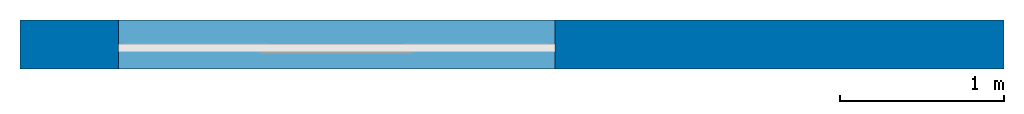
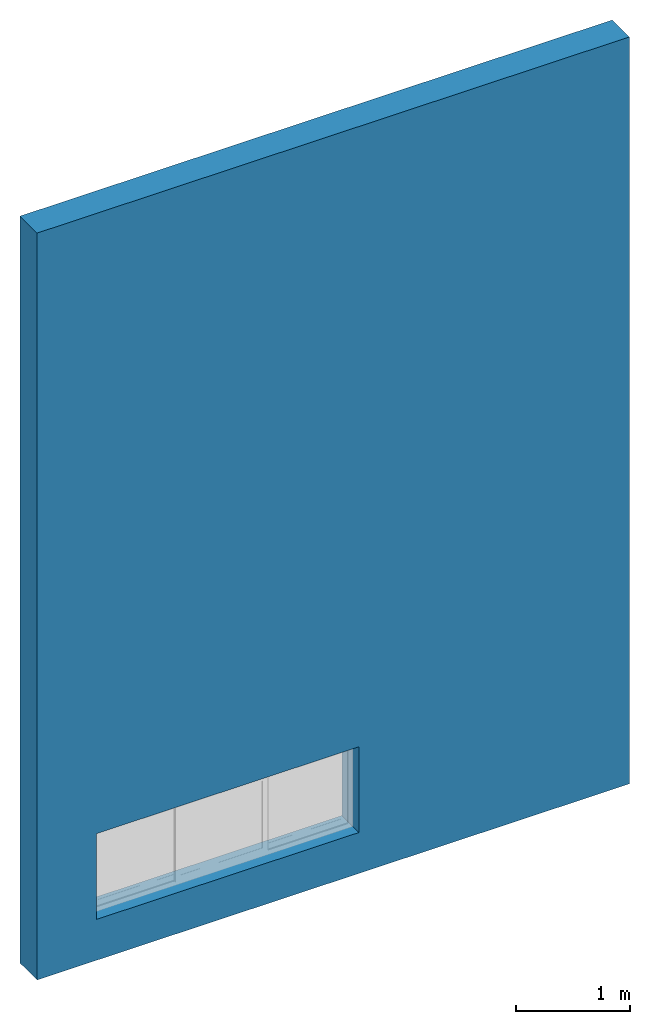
# One storey, incomplete: 1 wall, 1 opening.
"""IFC2X3 building model written with IfcOpenShell, lengths in millimetres."""

from ifc_helpers import new_model, entity, si_unit, converted_unit, derived_unit, direction, frame, frame_2d, origin, place, context, subcontext, project, spatial, rectangle, extrude, material, layer, layer_set, layer_usage, type_object, element, save


model = new_model("IFC2X3")

# Units and contexts
model_context = context("Model", 3, precision=0.01, world=origin(), true_north=direction((6.12303176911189e-17, 1.0)))
body_context = subcontext(model_context, "Body", "Model", "MODEL_VIEW")
ifc_project = project(units=[si_unit("LENGTHUNIT", "METRE", prefix="MILLI"), si_unit("AREAUNIT", "SQUARE_METRE"), si_unit("VOLUMEUNIT", "CUBIC_METRE"), converted_unit("PLANEANGLEUNIT", "DEGREE", entity("IfcRatioMeasure", 0.0174532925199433), si_unit("PLANEANGLEUNIT", "RADIAN"), dimensions=[0, 0, 0, 0, 0, 0, 0]), si_unit("MASSUNIT", "GRAM", prefix="KILO"), derived_unit("MASSDENSITYUNIT", [(si_unit("MASSUNIT", "GRAM", prefix="KILO"), 1), (si_unit("LENGTHUNIT", "METRE"), -3)]), si_unit("TIMEUNIT", "SECOND"), si_unit("FREQUENCYUNIT", "HERTZ"), si_unit("THERMODYNAMICTEMPERATUREUNIT", "DEGREE_CELSIUS"), derived_unit("THERMALTRANSMITTANCEUNIT", [(si_unit("MASSUNIT", "GRAM", prefix="KILO"), 1), (si_unit("THERMODYNAMICTEMPERATUREUNIT", "KELVIN"), -1), (si_unit("TIMEUNIT", "SECOND"), -3)]), derived_unit("VOLUMETRICFLOWRATEUNIT", [(si_unit("LENGTHUNIT", "METRE"), 3), (si_unit("TIMEUNIT", "SECOND"), -1)]), si_unit("ELECTRICCURRENTUNIT", "AMPERE"), si_unit("ELECTRICVOLTAGEUNIT", "VOLT"), si_unit("POWERUNIT", "WATT"), si_unit("FORCEUNIT", "NEWTON", prefix="KILO"), si_unit("ILLUMINANCEUNIT", "LUX"), si_unit("LUMINOUSFLUXUNIT", "LUMEN"), si_unit("LUMINOUSINTENSITYUNIT", "CANDELA"), derived_unit("USERDEFINED", [(si_unit("MASSUNIT", "GRAM", prefix="KILO"), -1), (si_unit("LENGTHUNIT", "METRE"), -2), (si_unit("TIMEUNIT", "SECOND"), 3), (si_unit("LUMINOUSFLUXUNIT", "LUMEN"), 1)]), derived_unit("LINEARVELOCITYUNIT", [(si_unit("LENGTHUNIT", "METRE"), 1), (si_unit("TIMEUNIT", "SECOND"), -1)]), si_unit("PRESSUREUNIT", "PASCAL"), derived_unit("USERDEFINED", [(si_unit("LENGTHUNIT", "METRE"), -2), (si_unit("MASSUNIT", "GRAM", prefix="KILO"), 1), (si_unit("TIMEUNIT", "SECOND"), -2)])], contexts=[model_context])

# Site, building, storey
site_placement = place(None, origin())
site = spatial("IfcSite", under=ifc_project, at=site_placement, Name="Default", CompositionType="ELEMENT")
building_placement = place(site_placement, origin())
building = spatial("IfcBuilding", under=site, at=building_placement, CompositionType="ELEMENT")
storey_placement = place(building_placement, origin())
storey = spatial("IfcBuildingStorey", under=building, at=storey_placement, Name="Nivel 1", CompositionType="ELEMENT", Elevation=0.0)

# Wall, opening
ifc_material = material(Name="Muro por defecto")
ifc_layer = layer(ifc_material, 300.0)
ifc_layer_set = layer_set([ifc_layer], Name="Muro básico:Genérico - 300 mm")
ifc_layer_usage = layer_usage(ifc_layer_set, "AXIS2", "NEGATIVE", 150.0)
wall_type = type_object("IfcWallType", Name="Muro básico:Genérico - 300 mm", PredefinedType="STANDARD", material=ifc_layer_set)
wall_placement = place(storey_placement, frame((-2628.76568665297, 279.280293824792, 0.0)))
wall = element("IfcWallStandardCase", 1, at=wall_placement, inside=storey, type_object=wall_type, material=ifc_layer_usage, Name="Muro básico:Genérico - 300 mm", ObjectType="Muro básico:Genérico - 300 mm:6291", context=body_context, shape_type="SweptSolid", body=[
    extrude(rectangle(XDim=6000.0, YDim=300.0, at=frame_2d((3000.0, 0.0), x_axis=(-1.0, 0.0))), origin(), (0.0, 0.0, 1.0), 8000.0),
])
opening_placement = place(wall_placement, origin())
element("IfcOpeningElement", 2, at=opening_placement, cuts=wall, Name="Muro básico:Genérico - 300 mm", ObjectType="Opening", context=body_context, shape_type="SweptSolid", body=[
    extrude(rectangle(XDim=917.999999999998, YDim=2661.0, at=frame_2d((0.0, 0.0), x_axis=(0.0, 1.0))), frame((1930.5, -1374.0, 896.970665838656), z_axis=(0.0, 1.0, 0.0), x_axis=(-1.0, 0.0, 0.0)), (0.0, 0.0, 1.0), 3048.0),
])

save(model, "model.ifc")
